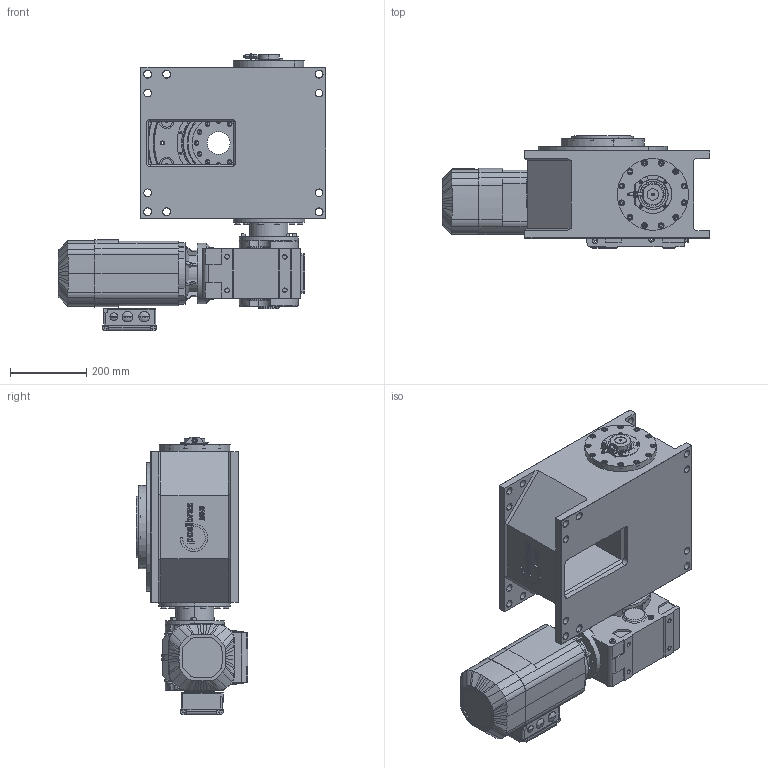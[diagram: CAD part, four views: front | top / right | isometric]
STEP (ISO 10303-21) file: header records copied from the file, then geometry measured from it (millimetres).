
FILE_DESCRIPTION (( 'STEP AP214' ), '1' );
FILE_NAME ('M340_SEW_KA67DRS71S4_D1_08.STEP', '2020-06-17T12:26:10', ( '' ), ( '' ), 'SwSTEP 2.0', 'SolidWorks 2020', '' );
FILE_SCHEMA (( 'AUTOMOTIVE_DESIGN' ));
Length unit declared in the file: millimetre
Products named in the file (1): M340_SEW_KA67DRS71S4_D1_08
Bounding box: 704.5 x 294 x 728.97 mm (x, y, z)
Surface area: 1733481.3 mm2 (no closed solid volume)
Topology: 0 solids, 113 shells, 1746 faces, 5352 edges, 3583 vertices
Faces by surface type: plane 827, cylinder 506, cone 194, bspline 107, torus 106, sphere 6
Entity records: 87168 total; most frequent: CARTESIAN_POINT 20782, DIRECTION 9947, ORIENTED_EDGE 8926, EDGE_CURVE 5310, VERTEX_POINT 3583, AXIS2_PLACEMENT_3D 3519, VECTOR 2909, LINE 2909
